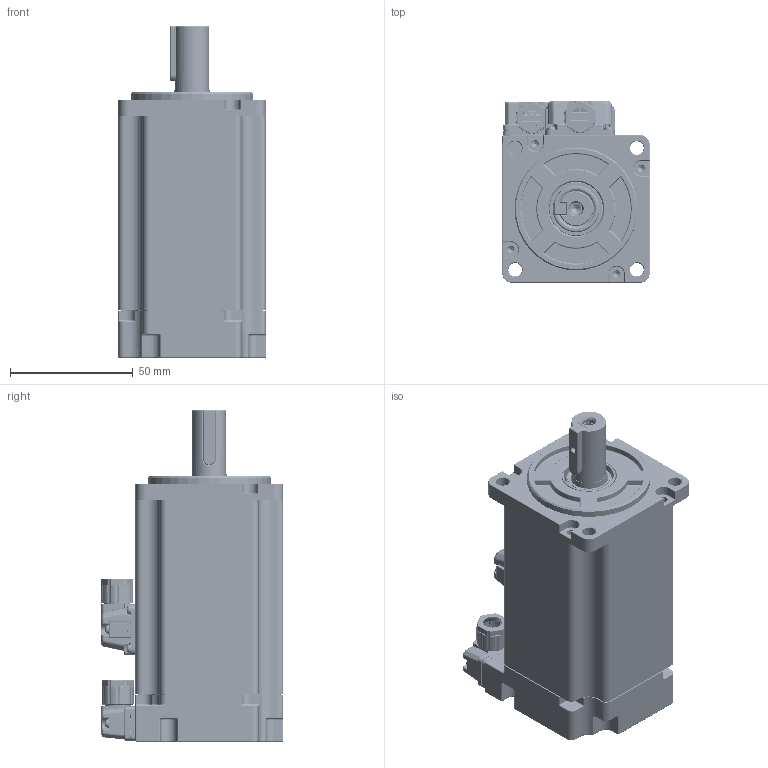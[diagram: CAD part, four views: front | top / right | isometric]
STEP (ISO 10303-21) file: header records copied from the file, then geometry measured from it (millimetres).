
FILE_DESCRIPTION (( 'STEP AP214' ), '1' );
FILE_NAME ('400W笢嫦講萇儂.STEP', '2021-07-01T03:09:48', ( '' ), ( '' ), 'SwSTEP 2.0', 'SolidWorks 2014', '' );
FILE_SCHEMA (( 'AUTOMOTIVE_DESIGN' ));
Length unit declared in the file: millimetre
Products named in the file (15): 綴傷裔_60價釱-201126; 蚐猾 D00B999YF2-TC 15-22-5; SC40陔晤鎢ん瑤脣芛sc-mc7s-a6-zhixianchatou; ヶ傷裔_60價釱-201126; 400W笢嫦講萇儂; 60-80蚳蚚雄薯脣芛-SC-MC6S-AC-GOUBANLUOSIXING; 瑩^400W笢嫦講萇儂; 60_400W笢嫦講儂褲; 60-80蚳蚚雄薯脣釱-sc-mc6p-ac-goubanchazuo; 60陔晤鎢ん綴欶-201126; SC40陔晤鎢ん瑤脣釱sc-mc7p-a6-zhichuxianchazuo; 60#晤鎢ん欶躇猾菜; 60#饜38沺郋笢嫦講粣; 蛌赽; 隅赽
Assembly tree (14 placements, depth 3):
  400W笢嫦講萇儂
    蛌赽
      60#饜38沺郋笢嫦講粣
    隅赽
      ヶ傷裔_60價釱-201126
      60_400W笢嫦講儂褲
    綴傷裔_60價釱-201126
    60-80蚳蚚雄薯脣釱-sc-mc6p-ac-goubanchazuo
    60#晤鎢ん欶躇猾菜
    60-80蚳蚚雄薯脣芛-SC-MC6S-AC-GOUBANLUOSIXING
    60陔晤鎢ん綴欶-201126
    SC40陔晤鎢ん瑤脣釱sc-mc7p-a6-zhichuxianchazuo
    瑩^400W笢嫦講萇儂
    蚐猾 D00B999YF2-TC 15-22-5
    SC40陔晤鎢ん瑤脣芛sc-mc7s-a6-zhixianchatou
Bounding box: 60 x 74 x 135 mm (x, y, z)
Volume: 139617.5 mm3; surface area: 94439.3 mm2
Topology: 21 solids, 21 shells, 6732 faces, 17633 edges, 11032 vertices
Faces by surface type: plane 3290, cylinder 2138, bspline 903, cone 216, torus 147, sphere 38
Entity records: 257073 total; most frequent: CARTESIAN_POINT 99245, ORIENTED_EDGE 35064, DIRECTION 29038, EDGE_CURVE 17532, VERTEX_POINT 11024, LINE 10662, VECTOR 10662, AXIS2_PLACEMENT_3D 9188
